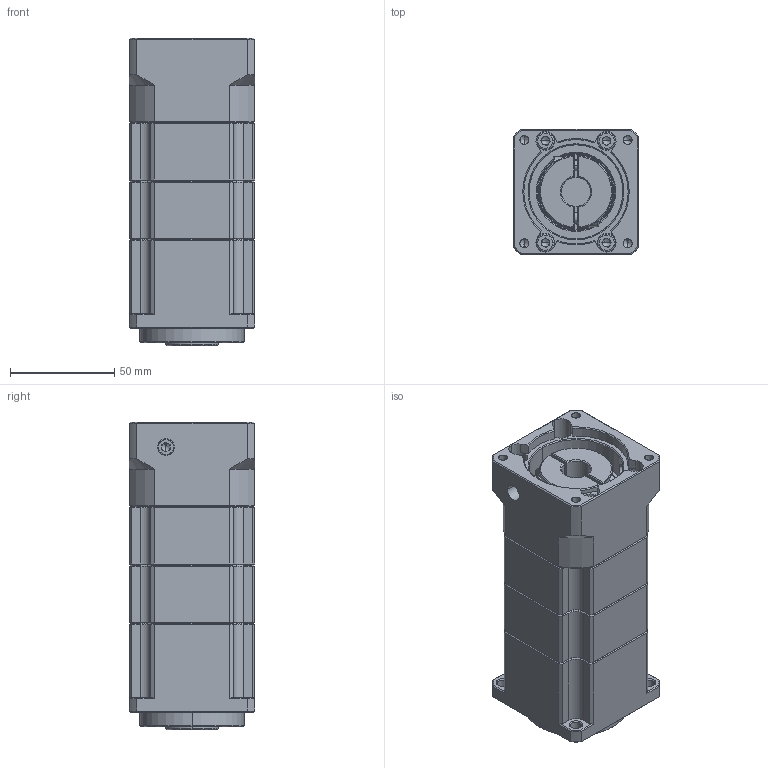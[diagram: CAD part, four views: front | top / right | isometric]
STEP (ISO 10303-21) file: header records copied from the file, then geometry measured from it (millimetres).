
FILE_DESCRIPTION (( 'STEP AP214' ), '1' );
FILE_NAME ('ZPB060-K16-L3-P1-14-50-70-M5.step', '2024-04-24T07:37:32', ( '' ), ( '' ), 'SwSTEP 2.0', 'SolidWorks 2016', '' );
FILE_SCHEMA (( 'AUTOMOTIVE_DESIGN' ));
Length unit declared in the file: millimetre
Products named in the file (1): ZPB060-K16-L3-P1-14-50-70-M5
Bounding box: 60 x 60 x 147.5 mm (x, y, z)
Volume: 421716 mm3; surface area: 77653.4 mm2
Topology: 13 solids, 14 shells, 1971 faces, 5514 edges, 3556 vertices
Faces by surface type: plane 1070, bspline 366, cylinder 227, cone 170, torus 92, sphere 46
Entity records: 100346 total; most frequent: CARTESIAN_POINT 31281, ORIENTED_EDGE 10758, DIRECTION 8254, EDGE_CURVE 5379, VERTEX_POINT 3487, VECTOR 3292, LINE 3292, AXIS2_PLACEMENT_3D 2481
